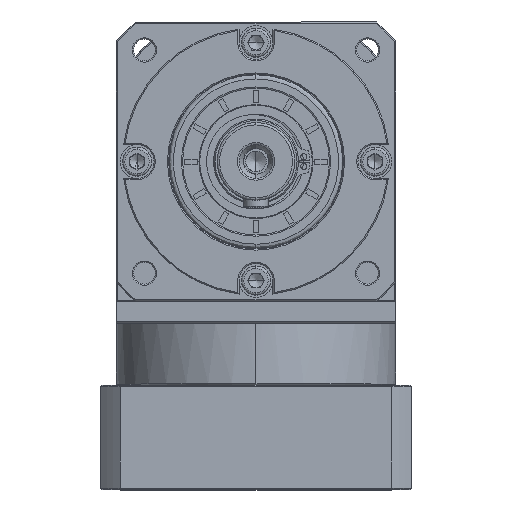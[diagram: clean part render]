
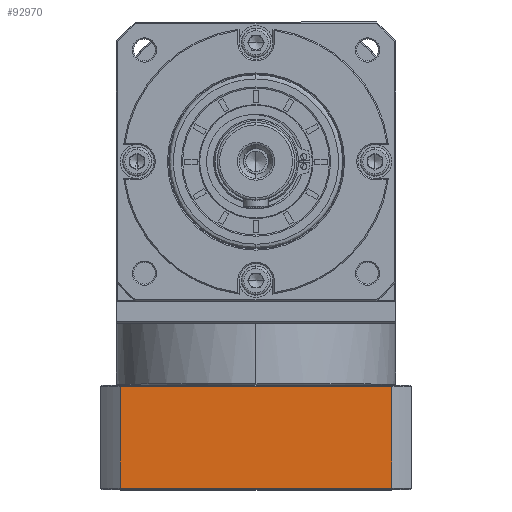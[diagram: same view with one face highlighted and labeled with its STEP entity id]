
A CAD part, top view. The second image highlights one B-rep face of the part: STEP entity #92970.
In plain terms, the highlighted planar face has unit normal (0, 0, 1).
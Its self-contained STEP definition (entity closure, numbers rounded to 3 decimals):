
#11555 = VECTOR ( 'NONE', #38479, 1000. ) ;
#11924 = EDGE_LOOP ( 'NONE', ( #56700, #129248, #169361, #171103 ) ) ;
#21760 = CARTESIAN_POINT ( 'NONE',  ( -253.509, -177.35, 97.075 ) ) ;
#27930 = VECTOR ( 'NONE', #31373, 1000. ) ;
#31373 = DIRECTION ( 'NONE',  ( 1., 0., 0. ) ) ;
#32080 = LINE ( 'NONE', #44819, #27930 ) ;
#32308 = CARTESIAN_POINT ( 'NONE',  ( -245.447, -134.85, 97.075 ) ) ;
#35230 = DIRECTION ( 'NONE',  ( -1., 0., 0. ) ) ;
#36151 = LINE ( 'NONE', #108915, #67603 ) ;
#38479 = DIRECTION ( 'NONE',  ( 0., 1., 0. ) ) ;
#44819 = CARTESIAN_POINT ( 'NONE',  ( -253.509, -134.85, 97.075 ) ) ;
#54766 = VERTEX_POINT ( 'NONE', #142444 ) ;
#56700 = ORIENTED_EDGE ( 'NONE', *, *, #141448, .F. ) ;
#58209 = FACE_OUTER_BOUND ( 'NONE', #11924, .T. ) ;
#60975 = LINE ( 'NONE', #170343, #132464 ) ;
#67603 = VECTOR ( 'NONE', #149999, 1000. ) ;
#67818 = EDGE_CURVE ( 'NONE', #141897, #142062, #32080, .T. ) ;
#88003 = PLANE ( 'NONE',  #99655 ) ;
#89973 = DIRECTION ( 'NONE',  ( 0., -1., 0. ) ) ;
#91331 = CARTESIAN_POINT ( 'NONE',  ( -245.447, -177.35, 97.075 ) ) ;
#92970 = ADVANCED_FACE ( 'NONE', ( #58209 ), #88003, .F. ) ;
#99655 = AXIS2_PLACEMENT_3D ( 'NONE', #21760, #115638, #35230 ) ;
#108915 = CARTESIAN_POINT ( 'NONE',  ( -253.509, -176.85, 97.075 ) ) ;
#111520 = VERTEX_POINT ( 'NONE', #133790 ) ;
#111956 = EDGE_CURVE ( 'NONE', #54766, #141897, #118744, .T. ) ;
#115638 = DIRECTION ( 'NONE',  ( 0., 0., -1. ) ) ;
#118744 = LINE ( 'NONE', #91331, #11555 ) ;
#129248 = ORIENTED_EDGE ( 'NONE', *, *, #67818, .F. ) ;
#132464 = VECTOR ( 'NONE', #89973, 1000. ) ;
#133790 = CARTESIAN_POINT ( 'NONE',  ( -133.572, -176.85, 97.075 ) ) ;
#140038 = EDGE_CURVE ( 'NONE', #111520, #54766, #36151, .T. ) ;
#141448 = EDGE_CURVE ( 'NONE', #142062, #111520, #60975, .T. ) ;
#141897 = VERTEX_POINT ( 'NONE', #32308 ) ;
#142062 = VERTEX_POINT ( 'NONE', #143834 ) ;
#142444 = CARTESIAN_POINT ( 'NONE',  ( -245.447, -176.85, 97.075 ) ) ;
#143834 = CARTESIAN_POINT ( 'NONE',  ( -133.572, -134.85, 97.075 ) ) ;
#149999 = DIRECTION ( 'NONE',  ( -1., 0., 0. ) ) ;
#169361 = ORIENTED_EDGE ( 'NONE', *, *, #111956, .F. ) ;
#170343 = CARTESIAN_POINT ( 'NONE',  ( -133.572, 118.064, 97.075 ) ) ;
#171103 = ORIENTED_EDGE ( 'NONE', *, *, #140038, .F. ) ;
